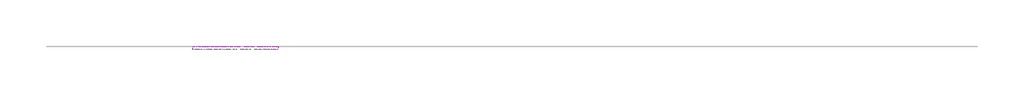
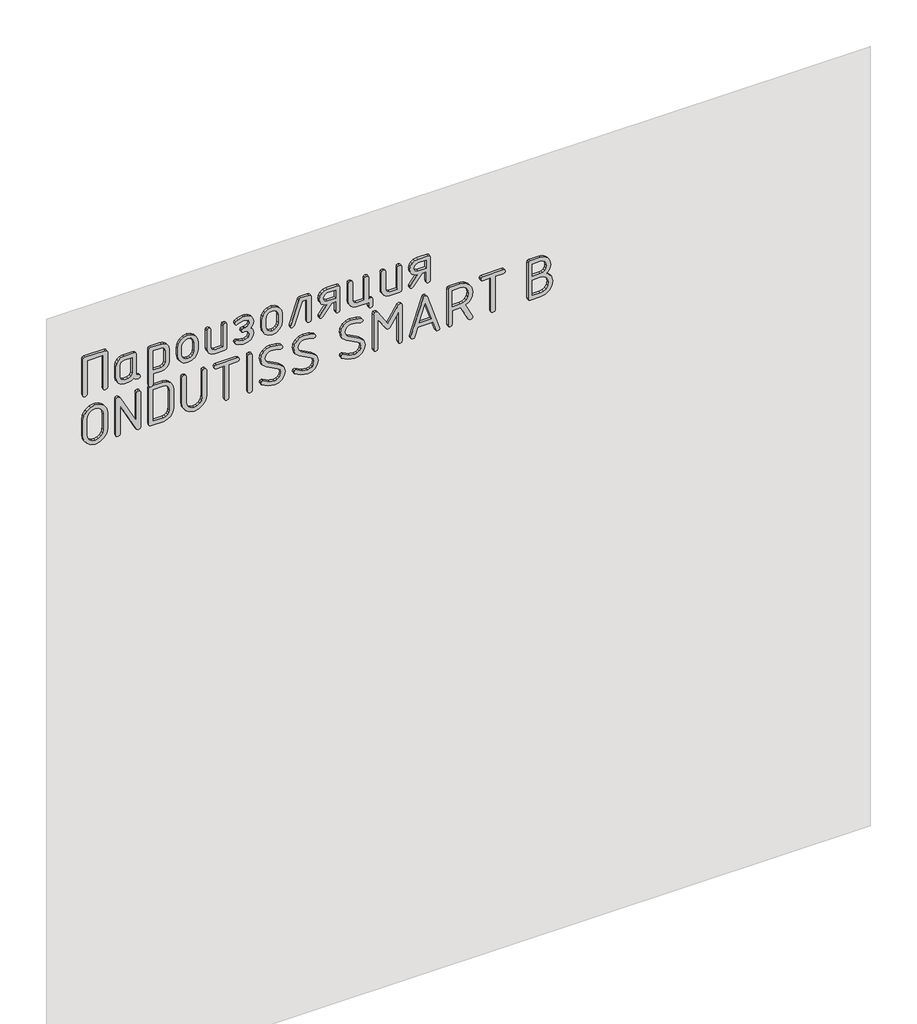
# One storey, part 24 of 42: 1 proxy.
"""IFC4 building model written with IfcOpenShell, lengths in millimetres."""

from ifc_helpers import new_model, si_unit, frame, origin, place, context, project, spatial, polyline, outline, extrude, element, save

model = new_model("IFC4")

# Units and contexts
model_context = context("Model", 3, world=origin())
ifc_project = project(units=[si_unit("LENGTHUNIT", "METRE", prefix="MILLI")], contexts=[model_context])

# Site, building, storey
site = spatial("IfcSite", under=ifc_project)
building = spatial("IfcBuilding", under=site)
storey = spatial("IfcBuildingStorey", under=building, Name="Этаж 01", Elevation=0.0)

# Proxy
placement = place(None, origin())
element("IfcBuildingElementProxy", 1, Name="150 мм GOST Common", ObjectType="150 мм GOST Common", at=placement, inside=storey, context=model_context, shape_type="SweptSolid", body=[
    extrude(outline(polyline([(2813.534126, -17003.1472358), (2811.6464128, -17008.750448), (2805.9832732, -17010.6181854), (2670.2277293, -17010.6181854), (2664.5645897, -17008.7005085), (2662.6768765, -17002.9474778), (2664.5546018, -16997.1944471), (2670.1877777, -16995.2767702), (2798.1927108, -16995.2767702), (2798.1927108, -16936.468012), (2670.1877777, -16936.468012), (2664.5546018, -16934.5503351), (2662.6768765, -16928.7973044), (2664.5645897, -16923.0442737), (2670.2277293, -16921.1265968), (2805.9832732, -16921.1265968), (2811.6464128, -16922.9943342), (2813.534126, -16928.5975464), (2813.534126, -17003.1472358)])), frame((0.0, -24838.3929597, 0.0), z_axis=(0.0, 1.0, 0.0), x_axis=(0.0, 0.0, 1.0)), (0.0, 0.0, 1.0), 10.0),
    extrude(outline(polyline([(2670.1478261, -16801.3117421), (2675.781002, -16803.1844735), (2677.6587273, -16808.8026675), (2679.5264647, -16814.4208616), (2685.1296769, -16816.2935929), (2760.0389308, -16816.2935929), (2765.642143, -16818.1513424), (2767.5098804, -16823.7245909), (2767.5098804, -16860.7996776), (2765.342506, -16872.2957511), (2758.8403827, -16881.8541719), (2749.1820829, -16888.2963678), (2737.5461788, -16890.4437664), (2692.6405781, -16890.4437664), (2681.004674, -16888.2963678), (2671.3463742, -16881.8541719), (2664.8442509, -16872.2957511), (2662.6768765, -16860.7996776), (2662.6768765, -16845.9376817), (2664.6644687, -16834.960979), (2670.6272453, -16825.8420258), (2664.6644687, -16818.2612093), (2662.6768765, -16808.7826917), (2664.5446139, -16803.1794795), (2670.1478261, -16801.3117421)]), holes=[polyline([(2752.1684652, -16831.6350081), (2692.8403361, -16831.6350081), (2682.3530405, -16835.8698779), (2678.0182917, -16846.1374397), (2678.0182917, -16860.5999196), (2682.3929921, -16870.8275298), (2692.8403361, -16875.1023512), (2737.3464208, -16875.1023512), (2747.8337163, -16870.8674814), (2752.1684652, -16860.5999196), (2752.1684652, -16831.6350081)])]), frame((0.0, -24838.3929597, 0.0), z_axis=(0.0, 1.0, 0.0), x_axis=(0.0, 0.0, 1.0)), (0.0, 0.0, 1.0), 10.0),
    extrude(outline(polyline([(2759.9590276, -16770.2693473), (2624.2034837, -16770.2693473), (2618.5403441, -16768.3516704), (2616.6526309, -16762.5986397), (2618.5703078, -16756.845609), (2624.3233385, -16754.9279321), (2662.6768765, -16754.9279321), (2662.6768765, -16725.523553), (2664.8592328, -16714.1323525), (2671.4063016, -16704.6488409), (2681.0795832, -16698.2515906), (2692.6405781, -16696.1191739), (2737.5461788, -16696.1191739), (2749.1820829, -16698.2665725), (2758.8403827, -16704.7087683), (2765.342506, -16714.2671891), (2767.5098804, -16725.7632626), (2767.5098804, -16762.8383493), (2765.6221672, -16768.4115978), (2759.9590276, -16770.2693473)]), holes=[polyline([(2752.1684652, -16754.9279321), (2752.1684652, -16725.9630206), (2747.8936437, -16715.6355315), (2737.3464208, -16711.4605891), (2692.8403361, -16711.4605891), (2682.3530405, -16715.6954589), (2678.0182917, -16725.9630206), (2678.0182917, -16754.9279321), (2752.1684652, -16754.9279321)])]), frame((0.0, -24838.3929597, 0.0), z_axis=(0.0, 1.0, 0.0), x_axis=(0.0, 0.0, 1.0)), (0.0, 0.0, 1.0), 10.0),
    extrude(outline(polyline([(2700.1115277, -16665.4363435), (2685.718963, -16662.7246285), (2673.6236155, -16654.5894835), (2665.4135613, -16642.6089968), (2662.6768765, -16628.3612568), (2665.4135613, -16614.1135167), (2673.6236155, -16602.13303), (2685.718963, -16593.997885), (2700.1115277, -16591.28617), (2730.0752292, -16591.28617), (2744.6176124, -16593.9679213), (2756.6829962, -16602.0131752), (2764.8031593, -16613.9636982), (2767.5098804, -16628.3612568), (2764.7731956, -16642.6089968), (2756.5631414, -16654.5894835), (2744.4677939, -16662.7246285), (2730.0752292, -16665.4363435), (2700.1115277, -16665.4363435)]), holes=[polyline([(2700.5509953, -16606.6275852), (2691.8914855, -16608.2206554), (2684.6103061, -16612.9998658), (2679.6662953, -16620.0263538), (2678.0182917, -16628.3612568), (2679.6563074, -16636.771069), (2684.5703545, -16643.7825752), (2691.841546, -16648.51684), (2700.5509953, -16650.0949283), (2730.5546484, -16650.0949283), (2739.1841945, -16648.5018582), (2746.4553861, -16643.7226478), (2751.3993968, -16636.6961597), (2753.0474004, -16628.3612568), (2751.3993968, -16620.0263538), (2746.4553861, -16612.9998658), (2739.1841945, -16608.2206554), (2730.5546484, -16606.6275852), (2700.5509953, -16606.6275852)])]), frame((0.0, -24838.3929597, 0.0), z_axis=(0.0, 1.0, 0.0), x_axis=(0.0, 0.0, 1.0)), (0.0, 0.0, 1.0), 10.0),
    extrude(outline(polyline([(2760.0389308, -16486.4531662), (2765.642143, -16488.3708431), (2767.5098804, -16494.1238738), (2765.642143, -16499.8769045), (2760.0389308, -16501.7945814), (2678.0182917, -16501.7945814), (2678.0182917, -16530.7594929), (2682.4329437, -16540.987103), (2692.9202393, -16545.2619244), (2760.0389308, -16545.2619244), (2765.642143, -16547.1796013), (2767.5098804, -16552.932632), (2765.642143, -16558.6856627), (2760.0389308, -16560.6033396), (2692.6405781, -16560.6033396), (2681.004674, -16558.455941), (2671.3463742, -16552.0137452), (2664.8442509, -16542.4553244), (2662.6768765, -16530.9592509), (2662.6768765, -16493.8841642), (2664.5446139, -16488.3109157), (2670.1478261, -16486.4531662), (2760.0389308, -16486.4531662)])), frame((0.0, -24838.3929597, 0.0), z_axis=(0.0, 1.0, 0.0), x_axis=(0.0, 0.0, 1.0)), (0.0, 0.0, 1.0), 10.0),
    extrude(outline(polyline([(2693.3996585, -16404.6322851), (2682.5128469, -16409.0069856), (2678.0182917, -16419.6540875), (2678.0182917, -16427.1649887), (2681.8336697, -16442.2067669), (2685.6490477, -16451.335708), (2682.9323388, -16455.450723), (2677.6587273, -16457.1686419), (2671.7059386, -16454.1223322), (2666.6320851, -16444.9834032), (2662.6768765, -16427.1649887), (2662.6768765, -16419.6540875), (2664.8991844, -16407.9682439), (2671.566108, -16398.1601256), (2681.4591234, -16391.5081838), (2693.3597069, -16389.2908699), (2707.1829612, -16391.9376636), (2716.3718297, -16399.8780445), (2725.0113637, -16391.9376636), (2738.3052592, -16389.2908699), (2749.6215505, -16391.5081838), (2759.0401407, -16398.1601256), (2765.3924455, -16407.9682439), (2767.5098804, -16419.6540875), (2767.5098804, -16427.1649887), (2763.434817, -16444.8635484), (2758.2710724, -16454.0923685), (2752.5280296, -16457.1686419), (2747.2743939, -16455.450723), (2744.5377092, -16451.4555628), (2748.3530872, -16442.5463555), (2752.1684652, -16427.1649887), (2752.1684652, -16419.6540875), (2748.1133776, -16408.967034), (2738.1055012, -16404.6322851), (2728.0976249, -16408.6673969), (2724.0425373, -16420.3332647), (2724.0425373, -16422.7303609), (2724.0425373, -16425.0076022), (2721.7852718, -16432.4186244), (2716.3318781, -16434.6359383), (2710.8984602, -16432.4785518), (2708.7011221, -16427.1649887), (2708.7011221, -16417.496701), (2704.7459135, -16408.6274453), (2693.3996585, -16404.6322851)])), frame((0.0, -24838.3929597, 0.0), z_axis=(0.0, 1.0, 0.0), x_axis=(0.0, 0.0, 1.0)), (0.0, 0.0, 1.0), 10.0),
    extrude(outline(polyline([(2700.1115277, -16358.6080395), (2685.718963, -16355.8963245), (2673.6236155, -16347.7611796), (2665.4135613, -16335.7806929), (2662.6768765, -16321.5329528), (2665.4135613, -16307.2852127), (2673.6236155, -16295.304726), (2685.718963, -16287.1695811), (2700.1115277, -16284.4578661), (2730.0752292, -16284.4578661), (2744.6176124, -16287.1396174), (2756.6829962, -16295.1848712), (2764.8031593, -16307.1353942), (2767.5098804, -16321.5329528), (2764.7731956, -16335.7806929), (2756.5631414, -16347.7611796), (2744.4677939, -16355.8963245), (2730.0752292, -16358.6080395), (2700.1115277, -16358.6080395)]), holes=[polyline([(2700.5509953, -16299.7992813), (2691.8914855, -16301.3923514), (2684.6103061, -16306.1715618), (2679.6662953, -16313.1980498), (2678.0182917, -16321.5329528), (2679.6563074, -16329.942765), (2684.5703545, -16336.9542712), (2691.841546, -16341.6885361), (2700.5509953, -16343.2666243), (2730.5546484, -16343.2666243), (2739.1841945, -16341.6735542), (2746.4553861, -16336.8943438), (2751.3993968, -16329.8678558), (2753.0474004, -16321.5329528), (2751.3993968, -16313.1980498), (2746.4553861, -16306.1715618), (2739.1841945, -16301.3923514), (2730.5546484, -16299.7992813), (2700.5509953, -16299.7992813)])]), frame((0.0, -24838.3929597, 0.0), z_axis=(0.0, 1.0, 0.0), x_axis=(0.0, 0.0, 1.0)), (0.0, 0.0, 1.0), 10.0),
    extrude(outline(polyline([(2767.5098804, -16217.4590294), (2765.9817316, -16222.0534636), (2761.3972852, -16224.9699306), (2672.5449222, -16254.6140193), (2670.2676809, -16254.9735837), (2664.5745776, -16253.0958584), (2662.6768765, -16247.4626826), (2667.75073, -16240.391249), (2752.1684652, -16212.1055147), (2752.1684652, -16194.9662774), (2670.1478261, -16194.9662774), (2664.5446139, -16193.0486005), (2662.6768765, -16187.2955698), (2664.5446139, -16181.5425391), (2670.1478261, -16179.6248622), (2760.0389308, -16179.6248622), (2765.642143, -16181.5425391), (2767.5098804, -16187.2955698), (2767.5098804, -16217.4590294)])), frame((0.0, -24838.3929597, 0.0), z_axis=(0.0, 1.0, 0.0), x_axis=(0.0, 0.0, 1.0)), (0.0, 0.0, 1.0), 10.0),
    extrude(outline(polyline([(2707.8221869, -16123.4129581), (2674.7023087, -16148.6623706), (2670.1478261, -16150.1405799), (2664.5446139, -16148.2628546), (2662.6768765, -16142.6296787), (2665.7531499, -16136.5969868), (2707.6623805, -16105.354834), (2707.6623805, -16090.1332736), (2670.1877777, -16090.1332736), (2664.5546018, -16088.2155967), (2662.6768765, -16082.462566), (2664.5446139, -16076.7095353), (2670.1478261, -16074.7918584), (2760.0389308, -16074.7918584), (2765.642143, -16076.7095353), (2767.5098804, -16082.462566), (2767.5098804, -16120.1369267), (2765.342506, -16131.752855), (2758.8403827, -16141.4311306), (2749.1820829, -16147.9632176), (2737.5461788, -16150.1405799), (2726.784216, -16148.2478727), (2717.5903536, -16142.5697513), (2710.9434058, -16133.9951387), (2707.8221869, -16123.4129581)]), holes=[polyline([(2737.1466628, -16135.1187775), (2747.7937647, -16130.7440771), (2752.1684652, -16120.1369267), (2752.1684652, -16090.1332736), (2722.164812, -16090.1332736), (2722.164812, -16120.1369267), (2726.5994398, -16130.6841497), (2737.1466628, -16135.1187775)])]), frame((0.0, -24838.3929597, 0.0), z_axis=(0.0, 1.0, 0.0), x_axis=(0.0, 0.0, 1.0)), (0.0, 0.0, 1.0), 10.0),
    extrude(outline(polyline([(2678.0182917, -15962.2881469), (2678.0182917, -15969.9588545), (2760.0389308, -15969.9588545), (2765.642143, -15971.8765314), (2767.5098804, -15977.6295621), (2765.642143, -15983.3825928), (2760.0389308, -15985.3002697), (2678.0182917, -15985.3002697), (2678.0182917, -16014.2651812), (2682.4329437, -16024.4927914), (2692.9202393, -16028.7676128), (2760.0389308, -16028.7676128), (2765.642143, -16030.6852897), (2767.5098804, -16036.4383204), (2765.642143, -16042.1913511), (2760.0389308, -16044.109028), (2692.6405781, -16044.109028), (2681.0795832, -16041.9616294), (2671.4063016, -16035.5194335), (2664.8592328, -16025.9610127), (2662.6768765, -16014.4649392), (2662.6768765, -15969.9588545), (2647.3354613, -15969.9588545), (2641.5824306, -15968.0411776), (2639.6647537, -15962.2881469), (2641.5824306, -15956.5351162), (2647.3354613, -15954.6174393), (2670.3475841, -15954.6174393), (2676.1006148, -15956.5351162), (2678.0182917, -15962.2881469)])), frame((0.0, -24838.3929597, 0.0), z_axis=(0.0, 1.0, 0.0), x_axis=(0.0, 0.0, 1.0)), (0.0, 0.0, 1.0), 10.0),
    extrude(outline(polyline([(2760.0389308, -15849.7844355), (2765.642143, -15851.7021124), (2767.5098804, -15857.4551431), (2765.642143, -15863.2081738), (2760.0389308, -15865.1258507), (2678.0182917, -15865.1258507), (2678.0182917, -15894.0907622), (2682.4329437, -15904.3183723), (2692.9202393, -15908.5931937), (2760.0389308, -15908.5931937), (2765.642143, -15910.5108706), (2767.5098804, -15916.2639013), (2765.642143, -15922.016932), (2760.0389308, -15923.9346089), (2692.6405781, -15923.9346089), (2681.004674, -15921.7872103), (2671.3463742, -15915.3450145), (2664.8442509, -15905.7865937), (2662.6768765, -15894.2905202), (2662.6768765, -15857.2154335), (2664.5446139, -15851.642185), (2670.1478261, -15849.7844355), (2760.0389308, -15849.7844355)])), frame((0.0, -24838.3929597, 0.0), z_axis=(0.0, 1.0, 0.0), x_axis=(0.0, 0.0, 1.0)), (0.0, 0.0, 1.0), 10.0),
    extrude(outline(polyline([(2707.8221869, -15793.5725314), (2674.7023087, -15818.8219439), (2670.1478261, -15820.3001532), (2664.5446139, -15818.4224279), (2662.6768765, -15812.789252), (2665.7531499, -15806.75656), (2707.6623805, -15775.5144072), (2707.6623805, -15760.2928468), (2670.1877777, -15760.2928468), (2664.5546018, -15758.3751699), (2662.6768765, -15752.6221392), (2664.5446139, -15746.8691085), (2670.1478261, -15744.9514316), (2760.0389308, -15744.9514316), (2765.642143, -15746.8691085), (2767.5098804, -15752.6221392), (2767.5098804, -15790.2965), (2765.342506, -15801.9124283), (2758.8403827, -15811.5907039), (2749.1820829, -15818.1227908), (2737.5461788, -15820.3001532), (2726.784216, -15818.407446), (2717.5903536, -15812.7293246), (2710.9434058, -15804.154712), (2707.8221869, -15793.5725314)]), holes=[polyline([(2737.1466628, -15805.2783508), (2747.7937647, -15800.9036503), (2752.1684652, -15790.2965), (2752.1684652, -15760.2928468), (2722.164812, -15760.2928468), (2722.164812, -15790.2965), (2726.5994398, -15800.8437229), (2737.1466628, -15805.2783508)])]), frame((0.0, -24838.3929597, 0.0), z_axis=(0.0, 1.0, 0.0), x_axis=(0.0, 0.0, 1.0)), (0.0, 0.0, 1.0), 10.0),
    extrude(outline(polyline([(2511.9177961, -16921.1265968), (2572.2447152, -16921.1265968), (2589.6885835, -16924.3876463), (2604.3058759, -16934.1707949), (2614.2088792, -16948.618293), (2617.5098804, -16965.8723911), (2614.1938974, -16983.05158), (2604.2459485, -16997.5140599), (2589.6136742, -17007.3421541), (2572.2447152, -17010.6181854), (2511.9177961, -17010.6181854), (2494.5488371, -17007.3421541), (2479.9165628, -16997.5140599), (2469.9686139, -16983.05158), (2466.6526309, -16965.8723911), (2469.9686139, -16948.6932022), (2479.9165628, -16934.2307223), (2494.5488371, -16924.4026281), (2511.9177961, -16921.1265968)]), holes=[polyline([(2512.0376509, -16936.468012), (2500.3917589, -16938.6004287), (2490.7034954, -16944.997679), (2484.1714084, -16954.4811906), (2481.9940461, -16965.8723911), (2484.1714084, -16977.2635916), (2490.7034954, -16986.7471032), (2500.3917589, -16993.1443535), (2512.0376509, -16995.2767702), (2572.1248604, -16995.2767702), (2583.7707524, -16993.1443535), (2593.4590159, -16986.7471032), (2599.9911029, -16977.2635916), (2602.1684652, -16965.8723911), (2599.9911029, -16954.4811906), (2593.4590159, -16944.997679), (2583.7707524, -16938.6004287), (2572.1248604, -16936.468012), (2512.0376509, -16936.468012)])]), frame((0.0, -24838.3929597, 0.0), z_axis=(0.0, 1.0, 0.0), x_axis=(0.0, 0.0, 1.0)), (0.0, 0.0, 1.0), 10.0),
    extrude(outline(polyline([(2503.3282016, -16816.2935929), (2613.0353009, -16875.1023512), (2617.5098804, -16882.453446), (2615.6221672, -16888.4461863), (2609.9590276, -16890.4437664), (2474.2034837, -16890.4437664), (2468.5403441, -16888.5260895), (2466.6526309, -16882.7730588), (2468.5403441, -16877.0200281), (2474.2034837, -16875.1023512), (2580.9541645, -16875.1023512), (2470.4080815, -16816.2935929), (2466.6526309, -16809.1023046), (2468.5403441, -16802.9897094), (2474.2034837, -16800.9521777), (2609.9590276, -16800.9521777), (2615.6221672, -16802.8698546), (2617.5098804, -16808.6228853), (2615.6221672, -16814.375916), (2609.9590276, -16816.2935929), (2503.3282016, -16816.2935929)])), frame((0.0, -24838.3929597, 0.0), z_axis=(0.0, 1.0, 0.0), x_axis=(0.0, 0.0, 1.0)), (0.0, 0.0, 1.0), 10.0),
    extrude(outline(polyline([(2609.9590276, -16770.2693473), (2474.2034837, -16770.2693473), (2468.5403441, -16768.4016099), (2466.6526309, -16762.7983977), (2466.6526309, -16718.0526034), (2469.4092915, -16703.7299541), (2477.6792731, -16691.684546), (2489.8645117, -16683.5044555), (2504.3669433, -16680.7777587), (2579.795568, -16680.7777587), (2594.4478181, -16683.4744918), (2606.603093, -16691.5646912), (2614.7831835, -16703.5801356), (2617.5098804, -16718.0526034), (2617.5098804, -16762.7983977), (2615.6221672, -16768.4016099), (2609.9590276, -16770.2693473)]), holes=[polyline([(2602.1684652, -16754.9279321), (2602.1684652, -16718.1724582), (2600.5204616, -16709.6977246), (2595.5764508, -16702.5713576), (2588.2952713, -16697.7322198), (2579.6357616, -16696.1191739), (2504.5267497, -16696.1191739), (2495.8672399, -16697.7322198), (2488.5860605, -16702.5713576), (2483.6420497, -16709.6977246), (2481.9940461, -16718.1724582), (2481.9940461, -16754.9279321), (2602.1684652, -16754.9279321)])]), frame((0.0, -24838.3929597, 0.0), z_axis=(0.0, 1.0, 0.0), x_axis=(0.0, 0.0, 1.0)), (0.0, 0.0, 1.0), 10.0),
    extrude(outline(polyline([(2609.9590276, -16560.6033396), (2615.6221672, -16562.5210165), (2617.5098804, -16568.2740472), (2615.6321551, -16574.0270779), (2609.9989792, -16575.9447548), (2512.1175541, -16575.9447548), (2500.4367044, -16578.0771716), (2490.7234712, -16584.4744219), (2484.1764024, -16593.9579334), (2481.9940461, -16605.349134), (2484.1764024, -16616.7403345), (2490.7234712, -16626.223846), (2500.4367044, -16632.6210963), (2512.1175541, -16634.7535131), (2609.9989792, -16634.7535131), (2615.6321551, -16636.67119), (2617.5098804, -16642.4242207), (2615.6221672, -16648.1772514), (2609.9590276, -16650.0949283), (2511.9177961, -16650.0949283), (2494.5488371, -16646.8188969), (2479.9165628, -16636.9908028), (2469.9686139, -16622.5283229), (2466.6526309, -16605.349134), (2469.9686139, -16588.1699451), (2479.9165628, -16573.7074651), (2494.5488371, -16563.879371), (2511.9177961, -16560.6033396), (2609.9590276, -16560.6033396)])), frame((0.0, -24838.3929597, 0.0), z_axis=(0.0, 1.0, 0.0), x_axis=(0.0, 0.0, 1.0)), (0.0, 0.0, 1.0), 10.0),
    extrude(outline(polyline([(2609.8391728, -16531.6384281), (2604.0861421, -16529.7607028), (2602.1684652, -16524.1275269), (2602.1684652, -16494.1238738), (2474.1635321, -16494.1238738), (2468.5303562, -16492.2061969), (2466.6526309, -16486.4531662), (2468.5303562, -16480.7001355), (2474.1635321, -16478.7824586), (2602.1684652, -16478.7824586), (2602.1684652, -16448.7788054), (2604.0861421, -16443.1755932), (2609.8391728, -16441.3078558), (2615.5922035, -16443.1755932), (2617.5098804, -16448.7788054), (2617.5098804, -16524.1275269), (2615.5922035, -16529.7607028), (2609.8391728, -16531.6384281)])), frame((0.0, -24838.3929597, 0.0), z_axis=(0.0, 1.0, 0.0), x_axis=(0.0, 0.0, 1.0)), (0.0, 0.0, 1.0), 10.0),
    extrude(outline(polyline([(2466.6526309, -16402.0753826), (2468.5403441, -16396.3223519), (2474.2034837, -16394.404675), (2609.9590276, -16394.404675), (2615.6221672, -16396.3223519), (2617.5098804, -16402.0753826), (2615.6221672, -16407.8284133), (2609.9590276, -16409.7460902), (2474.2034837, -16409.7460902), (2468.5403441, -16407.8284133), (2466.6526309, -16402.0753826)])), frame((0.0, -24838.3929597, 0.0), z_axis=(0.0, 1.0, 0.0), x_axis=(0.0, 0.0, 1.0)), (0.0, 0.0, 1.0), 10.0),
    extrude(outline(polyline([(2504.2870401, -16274.2302559), (2524.1429863, -16279.3140973), (2537.8463858, -16294.5656214), (2559.5001542, -16336.2351424), (2567.6602689, -16345.3441076), (2579.59581, -16348.3804294), (2588.2603137, -16346.7673835), (2595.556475, -16341.9282457), (2600.5154676, -16334.8018786), (2602.1684652, -16326.3271451), (2600.4904979, -16309.567448), (2595.456596, -16292.6878961), (2594.657564, -16289.5716711), (2596.8748779, -16284.2780839), (2602.1684652, -16282.06077), (2609.1599955, -16286.4953978), (2615.4224092, -16303.4648408), (2617.5098804, -16326.6467579), (2614.7432319, -16340.8195887), (2606.4432866, -16352.8150572), (2594.2680359, -16360.9951478), (2579.8754712, -16363.7218446), (2560.0494887, -16358.6979306), (2546.4359803, -16343.6261888), (2524.7822119, -16301.9167162), (2516.5322061, -16292.6579324), (2504.5667013, -16289.5716711), (2495.9021976, -16291.1996989), (2488.6060363, -16296.0837823), (2483.6470437, -16303.2750707), (2481.9940461, -16311.8247135), (2485.1901743, -16331.6007565), (2495.657494, -16352.0559768), (2497.0158485, -16356.2908466), (2494.7985346, -16361.5245065), (2489.5049473, -16363.7218446), (2483.3923522, -16360.4458132), (2470.8375612, -16337.5235815), (2466.6526309, -16311.5051007), (2469.4192794, -16297.2573606), (2477.7192247, -16285.1969707), (2489.8944754, -16276.9719346), (2504.2870401, -16274.2302559)])), frame((0.0, -24838.3929597, 0.0), z_axis=(0.0, 1.0, 0.0), x_axis=(0.0, 0.0, 1.0)), (0.0, 0.0, 1.0), 10.0),
    extrude(outline(polyline([(2504.2870401, -16154.0558369), (2524.1429863, -16159.1396783), (2537.8463858, -16174.3912024), (2559.5001542, -16216.0607233), (2567.6602689, -16225.1696886), (2579.59581, -16228.2060104), (2588.2603137, -16226.5929644), (2595.556475, -16221.7538266), (2600.5154676, -16214.6274596), (2602.1684652, -16206.152726), (2600.4904979, -16189.3930289), (2595.456596, -16172.5134771), (2594.657564, -16169.3972521), (2596.8748779, -16164.1036648), (2602.1684652, -16161.8863509), (2609.1599955, -16166.3209787), (2615.4224092, -16183.2904217), (2617.5098804, -16206.4723388), (2614.7432319, -16220.6451697), (2606.4432866, -16232.6406382), (2594.2680359, -16240.8207287), (2579.8754712, -16243.5474256), (2560.0494887, -16238.5235116), (2546.4359803, -16223.4517697), (2524.7822119, -16181.7422971), (2516.5322061, -16172.4835134), (2504.5667013, -16169.3972521), (2495.9021976, -16171.0252799), (2488.6060363, -16175.9093632), (2483.6470437, -16183.1006516), (2481.9940461, -16191.6502945), (2485.1901743, -16211.4263375), (2495.657494, -16231.8815577), (2497.0158485, -16236.1164276), (2494.7985346, -16241.3500874), (2489.5049473, -16243.5474256), (2483.3923522, -16240.2713942), (2470.8375612, -16217.3491625), (2466.6526309, -16191.3306816), (2469.4192794, -16177.0829415), (2477.7192247, -16165.0225517), (2489.8944754, -16156.7975156), (2504.2870401, -16154.0558369)])), frame((0.0, -24838.3929597, 0.0), z_axis=(0.0, 1.0, 0.0), x_axis=(0.0, 0.0, 1.0)), (0.0, 0.0, 1.0), 10.0),
    extrude(outline(polyline([(2504.2870401, -15982.7433672), (2524.1429863, -15987.8272086), (2537.8463858, -16003.0787327), (2559.5001542, -16044.7482536), (2567.6602689, -16053.8572189), (2579.59581, -16056.8935406), (2588.2603137, -16055.2804947), (2595.556475, -16050.4413569), (2600.5154676, -16043.3149899), (2602.1684652, -16034.8402563), (2600.4904979, -16018.0805592), (2595.456596, -16001.2010074), (2594.657564, -15998.0847824), (2596.8748779, -15992.7911951), (2602.1684652, -15990.5738812), (2609.1599955, -15995.008509), (2615.4224092, -16011.977952), (2617.5098804, -16035.1598691), (2614.7432319, -16049.3327), (2606.4432866, -16061.3281685), (2594.2680359, -16069.508259), (2579.8754712, -16072.2349558), (2560.0494887, -16067.2110419), (2546.4359803, -16052.1393), (2524.7822119, -16010.4298274), (2516.5322061, -16001.1710437), (2504.5667013, -15998.0847824), (2495.9021976, -15999.7128102), (2488.6060363, -16004.5968935), (2483.6470437, -16011.7881819), (2481.9940461, -16020.3378247), (2485.1901743, -16040.1138678), (2495.657494, -16060.569088), (2497.0158485, -16064.8039579), (2494.7985346, -16070.0376177), (2489.5049473, -16072.2349558), (2483.3923522, -16068.9589245), (2470.8375612, -16046.0366928), (2466.6526309, -16020.0182119), (2469.4192794, -16005.7704718), (2477.7192247, -15993.710082), (2489.8944754, -15985.4850459), (2504.2870401, -15982.7433672)])), frame((0.0, -24838.3929597, 0.0), z_axis=(0.0, 1.0, 0.0), x_axis=(0.0, 0.0, 1.0)), (0.0, 0.0, 1.0), 10.0),
    extrude(outline(polyline([(2617.5098804, -15855.5374662), (2614.1938974, -15862.5689481), (2555.7846552, -15899.7638897), (2613.7544298, -15936.7191216), (2617.5098804, -15943.91041), (2615.6221672, -15950.0230051), (2609.9590276, -15952.0605368), (2474.2034837, -15952.0605368), (2468.5403441, -15950.1428599), (2466.6526309, -15944.3898292), (2468.5403441, -15938.6367985), (2474.2034837, -15936.7191216), (2585.1490827, -15936.7191216), (2539.3245951, -15906.5956136), (2534.8100641, -15899.6440349), (2539.3245951, -15892.7723593), (2585.1490827, -15862.5689481), (2474.2034837, -15862.5689481), (2468.5403441, -15860.6512712), (2466.6526309, -15854.8982405), (2468.5403441, -15849.1452099), (2474.2034837, -15847.227533), (2609.9590276, -15847.227533), (2615.6221672, -15849.3050163), (2617.5098804, -15855.5374662)])), frame((0.0, -24838.3929597, 0.0), z_axis=(0.0, 1.0, 0.0), x_axis=(0.0, 0.0, 1.0)), (0.0, 0.0, 1.0), 10.0),
    extrude(outline(polyline([(2474.2034837, -15711.8715051), (2476.6005798, -15712.2310695), (2611.6769465, -15757.0168155), (2616.0516469, -15759.8134276), (2617.5098804, -15764.3679102), (2615.9917195, -15768.9823203), (2611.4372369, -15771.8788114), (2476.6005798, -15816.5447026), (2474.2034837, -15816.904267), (2468.5403441, -15815.0265417), (2466.6526309, -15809.3933658), (2467.9610459, -15804.8688468), (2471.8862908, -15802.242029), (2505.0061689, -15791.4151448), (2505.0061689, -15737.3206756), (2471.8862908, -15726.5337431), (2467.9610459, -15723.9069252), (2466.6526309, -15719.3824063), (2468.5403441, -15713.7492304), (2474.2034837, -15711.8715051)]), holes=[polyline([(2586.5074372, -15764.3679102), (2520.3475841, -15742.3545775), (2520.3475841, -15786.4211946), (2586.5074372, -15764.3679102)])]), frame((0.0, -24838.3929597, 0.0), z_axis=(0.0, 1.0, 0.0), x_axis=(0.0, 0.0, 1.0)), (0.0, 0.0, 1.0), 10.0),
    extrude(outline(polyline([(2530.1756782, -15617.705579), (2536.8800565, -15606.256948), (2546.1263554, -15598.0793545), (2557.9145749, -15593.1727984), (2572.2447152, -15591.5372797), (2589.6885835, -15594.7983292), (2604.3058759, -15604.5814777), (2614.2088792, -15619.0289758), (2617.5098804, -15636.283074), (2617.5098804, -15673.5579187), (2615.6221672, -15679.1611309), (2609.9590276, -15681.0288683), (2474.2034837, -15681.0288683), (2468.5403441, -15679.1111914), (2466.6526309, -15673.3581607), (2468.4904046, -15667.60513), (2474.0037257, -15665.6874531), (2525.4613892, -15665.6874531), (2525.4613892, -15636.6026868), (2525.581244, -15633.9658811), (2470.7676459, -15606.8786949), (2466.6526309, -15599.5675517), (2468.9298722, -15593.9743274), (2474.2034837, -15591.5372797), (2477.6393215, -15591.5372797), (2530.1756782, -15617.705579)]), holes=[polyline([(2602.1684652, -15665.6874531), (2602.1684652, -15636.283074), (2599.9461573, -15624.8918734), (2593.2792337, -15615.4083619), (2583.3862182, -15609.0111116), (2571.4856348, -15606.8786949), (2559.5850513, -15609.0111116), (2549.6920358, -15615.4083619), (2543.0251122, -15624.8918734), (2540.8028044, -15636.283074), (2540.8028044, -15665.6874531), (2602.1684652, -15665.6874531)])]), frame((0.0, -24838.3929597, 0.0), z_axis=(0.0, 1.0, 0.0), x_axis=(0.0, 0.0, 1.0)), (0.0, 0.0, 1.0), 10.0),
    extrude(outline(polyline([(2609.8391728, -15562.5723682), (2604.0861421, -15560.6946429), (2602.1684652, -15555.061467), (2602.1684652, -15525.0578138), (2474.1635321, -15525.0578138), (2468.5303562, -15523.1401369), (2466.6526309, -15517.3871062), (2468.5303562, -15511.6340755), (2474.1635321, -15509.7163986), (2602.1684652, -15509.7163986), (2602.1684652, -15479.7127454), (2604.0861421, -15474.1095333), (2609.8391728, -15472.2417959), (2615.5922035, -15474.1095333), (2617.5098804, -15479.7127454), (2617.5098804, -15555.061467), (2615.5922035, -15560.6946429), (2609.8391728, -15562.5723682)])), frame((0.0, -24838.3929597, 0.0), z_axis=(0.0, 1.0, 0.0), x_axis=(0.0, 0.0, 1.0)), (0.0, 0.0, 1.0), 10.0),
    extrude(outline(polyline([(2549.272544, -15321.9039172), (2562.4965243, -15311.2668032), (2579.1563424, -15307.7210985), (2594.0383141, -15310.4128377), (2606.403335, -15318.4880553), (2614.733244, -15330.4785298), (2617.5098804, -15344.91604), (2617.5098804, -15382.1109816), (2615.6221672, -15387.6842301), (2609.9590276, -15389.5419796), (2474.2034837, -15389.5419796), (2468.5403441, -15387.6742422), (2466.6526309, -15382.07103), (2466.6526309, -15344.7961852), (2469.9236683, -15327.6169963), (2479.7367806, -15313.1545164), (2494.1643029, -15303.3264223), (2511.2785704, -15300.0503909), (2533.4616975, -15305.5137725), (2549.272544, -15321.9039172)]), holes=[polyline([(2602.1684652, -15374.2005644), (2602.1684652, -15344.9959432), (2600.4855039, -15336.5611613), (2595.4366202, -15329.4747458), (2588.0006283, -15324.6655717), (2579.1563424, -15323.0625137), (2570.3120565, -15324.6655717), (2562.8760645, -15329.4747458), (2557.8271808, -15336.5611613), (2556.1442196, -15344.9959432), (2556.1442196, -15374.2005644), (2602.1684652, -15374.2005644)]), polyline([(2540.8028044, -15374.2005644), (2540.8028044, -15344.7961852), (2538.6703876, -15333.4049847), (2532.2731373, -15323.9214731), (2522.7896258, -15317.5242229), (2511.3984253, -15315.3918061), (2500.0072247, -15317.5242229), (2490.5237132, -15323.9214731), (2484.1264629, -15333.4049847), (2481.9940461, -15344.7961852), (2481.9940461, -15374.2005644), (2540.8028044, -15374.2005644)])]), frame((0.0, -24838.3929597, 0.0), z_axis=(0.0, 1.0, 0.0), x_axis=(0.0, 0.0, 1.0)), (0.0, 0.0, 1.0), 10.0),
])

save(model, "model.ifc")
